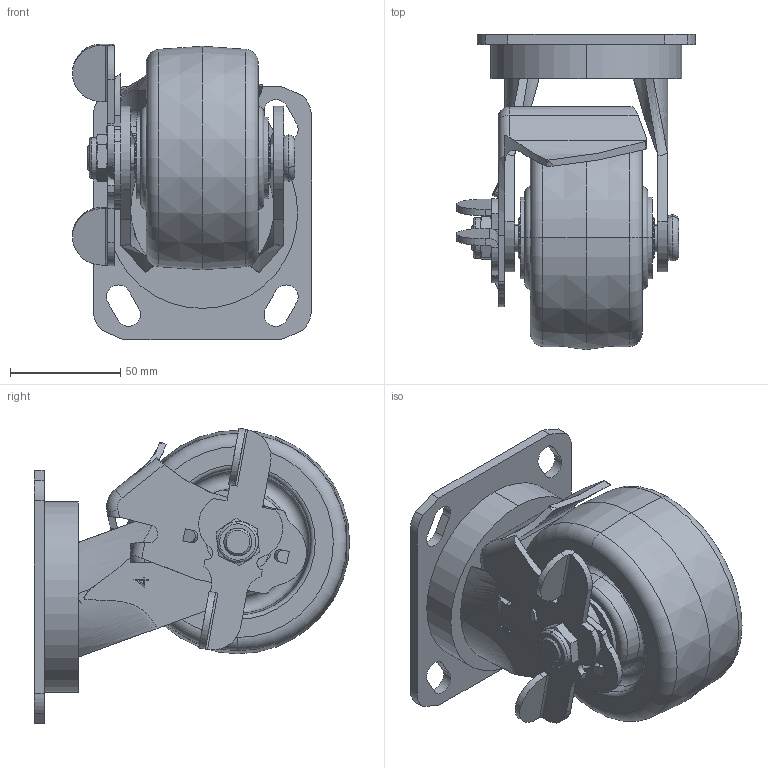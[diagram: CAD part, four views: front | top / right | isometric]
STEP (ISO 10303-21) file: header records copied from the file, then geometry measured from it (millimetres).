
FILE_DESCRIPTION (( 'STEP AP203' ), '1' );
FILE_NAME ('4111204004003-7.STEP', '2025-08-27T06:14:32', ( '' ), ( '' ), 'SwSTEP 2.0', 'SolidWorks 2019', '' );
FILE_SCHEMA (( 'CONFIG_CONTROL_DESIGN' ));
Length unit declared in the file: millimetre
Products named in the file (1): 4111204004003-7
Bounding box: 108.65 x 143.27 x 134.4 mm (x, y, z)
Surface area: 104106.8 mm2 (no closed solid volume)
Topology: 0 solids, 6 shells, 383 faces, 1196 edges, 852 vertices
Faces by surface type: plane 174, cylinder 117, torus 40, cone 32, bspline 19, sphere 1
Entity records: 22919 total; most frequent: CARTESIAN_POINT 12555, ORIENTED_EDGE 2379, DIRECTION 1875, EDGE_CURVE 1194, VERTEX_POINT 851, AXIS2_PLACEMENT_3D 691, LINE 493, VECTOR 493
